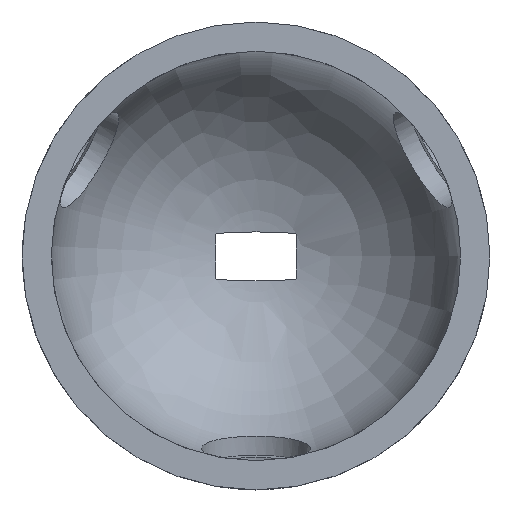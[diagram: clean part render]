
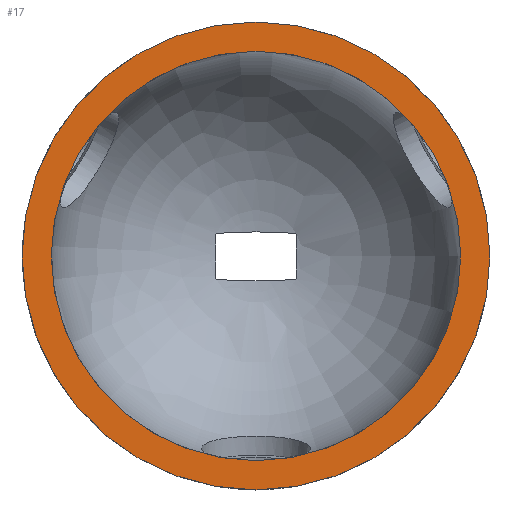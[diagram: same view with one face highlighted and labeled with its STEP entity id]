
A CAD part, top view. The second image highlights one B-rep face of the part: STEP entity #17.
In plain terms, the highlighted planar face has unit normal (0, 0, 1).
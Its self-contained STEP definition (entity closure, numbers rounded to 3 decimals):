
#17 = ADVANCED_FACE('',(#18,#54),#31,.T.);
#18 = FACE_BOUND('',#19,.F.);
#19 = EDGE_LOOP('',(#20));
#20 = ORIENTED_EDGE('',*,*,#21,.T.);
#21 = EDGE_CURVE('',#22,#22,#24,.T.);
#22 = VERTEX_POINT('',#23);
#23 = CARTESIAN_POINT('',(21.,0.,0.));
#24 = SURFACE_CURVE('',#25,(#30,#42),.PCURVE_S1.);
#25 = CIRCLE('',#26,21.);
#26 = AXIS2_PLACEMENT_3D('',#27,#28,#29);
#27 = CARTESIAN_POINT('',(0.,0.,0.));
#28 = DIRECTION('',(0.,0.,1.));
#29 = DIRECTION('',(1.,0.,-0.));
#30 = PCURVE('',#31,#36);
#31 = PLANE('',#32);
#32 = AXIS2_PLACEMENT_3D('',#33,#34,#35);
#33 = CARTESIAN_POINT('',(0.,0.,0.));
#34 = DIRECTION('',(0.,0.,1.));
#35 = DIRECTION('',(1.,0.,-0.));
#36 = DEFINITIONAL_REPRESENTATION('',(#37),#41);
#37 = CIRCLE('',#38,21.);
#38 = AXIS2_PLACEMENT_2D('',#39,#40);
#39 = CARTESIAN_POINT('',(0.,0.));
#40 = DIRECTION('',(1.,-0.));
#41 = ( GEOMETRIC_REPRESENTATION_CONTEXT(2) 
PARAMETRIC_REPRESENTATION_CONTEXT() REPRESENTATION_CONTEXT('2D SPACE',''
  ) );
#42 = PCURVE('',#43,#48);
#43 = CYLINDRICAL_SURFACE('',#44,21.);
#44 = AXIS2_PLACEMENT_3D('',#45,#46,#47);
#45 = CARTESIAN_POINT('',(0.,0.,-4.));
#46 = DIRECTION('',(0.,0.,1.));
#47 = DIRECTION('',(1.,0.,-0.));
#48 = DEFINITIONAL_REPRESENTATION('',(#49),#53);
#49 = LINE('',#50,#51);
#50 = CARTESIAN_POINT('',(0.,4.));
#51 = VECTOR('',#52,1.);
#52 = DIRECTION('',(1.,0.));
#53 = ( GEOMETRIC_REPRESENTATION_CONTEXT(2) 
PARAMETRIC_REPRESENTATION_CONTEXT() REPRESENTATION_CONTEXT('2D SPACE',''
  ) );
#54 = FACE_BOUND('',#55,.F.);
#55 = EDGE_LOOP('',(#56));
#56 = ORIENTED_EDGE('',*,*,#57,.F.);
#57 = EDGE_CURVE('',#58,#58,#60,.T.);
#58 = VERTEX_POINT('',#59);
#59 = CARTESIAN_POINT('',(24.,0.,0.));
#60 = SURFACE_CURVE('',#61,(#66,#73),.PCURVE_S1.);
#61 = CIRCLE('',#62,24.);
#62 = AXIS2_PLACEMENT_3D('',#63,#64,#65);
#63 = CARTESIAN_POINT('',(0.,0.,0.));
#64 = DIRECTION('',(0.,0.,1.));
#65 = DIRECTION('',(1.,0.,-0.));
#66 = PCURVE('',#31,#67);
#67 = DEFINITIONAL_REPRESENTATION('',(#68),#72);
#68 = CIRCLE('',#69,24.);
#69 = AXIS2_PLACEMENT_2D('',#70,#71);
#70 = CARTESIAN_POINT('',(0.,0.));
#71 = DIRECTION('',(1.,-0.));
#72 = ( GEOMETRIC_REPRESENTATION_CONTEXT(2) 
PARAMETRIC_REPRESENTATION_CONTEXT() REPRESENTATION_CONTEXT('2D SPACE',''
  ) );
#73 = PCURVE('',#74,#79);
#74 = CYLINDRICAL_SURFACE('',#75,24.);
#75 = AXIS2_PLACEMENT_3D('',#76,#77,#78);
#76 = CARTESIAN_POINT('',(0.,0.,0.));
#77 = DIRECTION('',(-0.,-0.,-1.));
#78 = DIRECTION('',(1.,0.,0.));
#79 = DEFINITIONAL_REPRESENTATION('',(#80),#84);
#80 = LINE('',#81,#82);
#81 = CARTESIAN_POINT('',(-0.,0.));
#82 = VECTOR('',#83,1.);
#83 = DIRECTION('',(-1.,0.));
#84 = ( GEOMETRIC_REPRESENTATION_CONTEXT(2) 
PARAMETRIC_REPRESENTATION_CONTEXT() REPRESENTATION_CONTEXT('2D SPACE',''
  ) );
